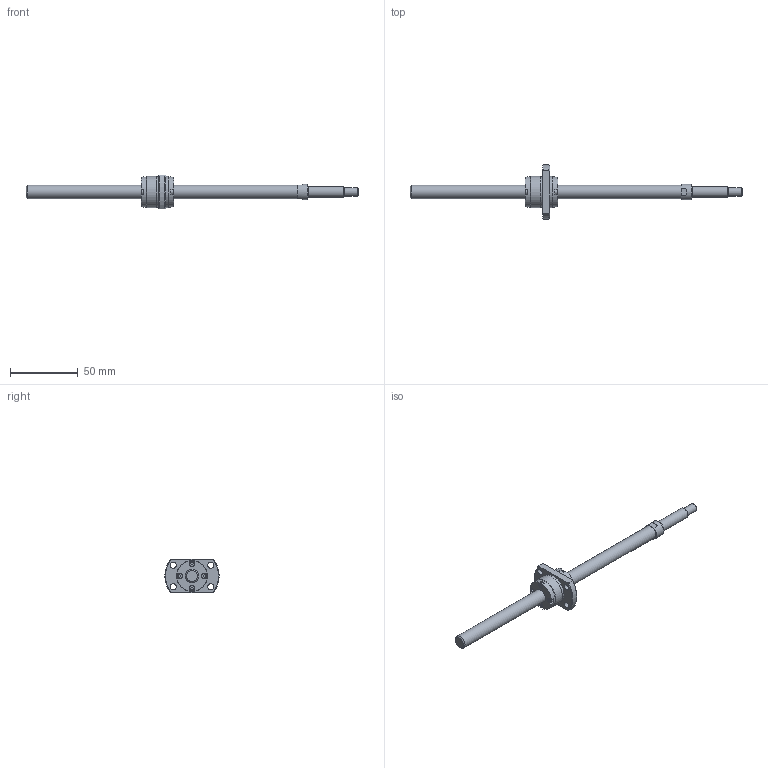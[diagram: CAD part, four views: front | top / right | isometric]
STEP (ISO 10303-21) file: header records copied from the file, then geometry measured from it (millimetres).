
FILE_DESCRIPTION(/* description */ ('STEP AP214'),/* implementation_level */ '2;1');
FILE_NAME(/* name */ 'SRT1010-196R245C7A0X(85Processing)',/* time_stamp */ '2026-08-06T15:10:39+02:00',/* author */ ('License CC BY-ND 4.0'),/* organization */ ('CADENAS'),/* preprocessor_version */ 'ST-DEVELOPER v20',/* originating_system */ 'PARTsolutions',/* authorisation */ ' ');
FILE_SCHEMA (('AUTOMOTIVE_DESIGN {1 0 10303 214 3 1 1}'));
Length unit declared in the file: millimetre
Products named in the file (3): SRT1010-196R245C7A0X(85Processing); SRT1010-196R270ACt7Processing65Shaft; SRT1010Nut
Assembly tree (2 placements, depth 2):
  SRT1010-196R245C7A0X(85Processing)
    SRT1010-196R270ACt7Processing65Shaft
    SRT1010Nut
Bounding box: 245 x 40 x 25 mm (x, y, z)
Volume: 28148.9 mm3; surface area: 12425.9 mm2
Topology: 2 solids, 2 shells, 150 faces, 360 edges, 236 vertices
Faces by surface type: plane 106, cylinder 32, cone 11, torus 1
Full cylindrical faces by diameter (mm): 3.8 x8, 4.5 x4, 6 x1, 8 x1, 10 x2, 11.5 x1, 22.5 x3, 23 x2
Entity records: 4267 total; most frequent: CARTESIAN_POINT 737, DIRECTION 718, ORIENTED_EDGE 654, EDGE_CURVE 327, AXIS2_PLACEMENT_3D 246, VERTEX_POINT 233, LINE 226, VECTOR 226
